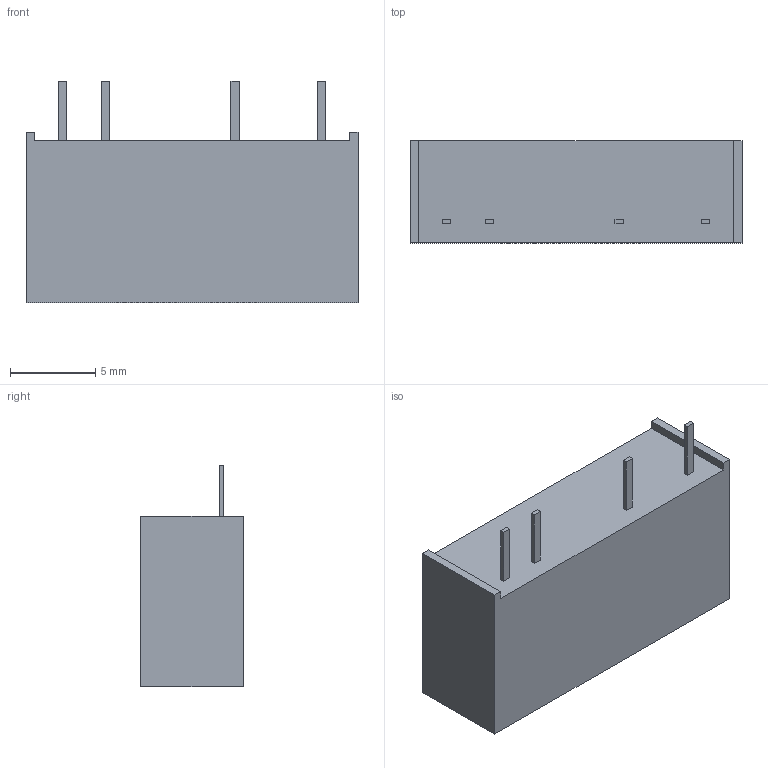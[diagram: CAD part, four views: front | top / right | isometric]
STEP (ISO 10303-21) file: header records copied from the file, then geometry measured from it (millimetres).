
FILE_DESCRIPTION(/* description */ ('Unknown'),/* implementation_level */ '2;1');
FILE_NAME(/* name */ 'ITV(SA)',/* time_stamp */ '2017-12-01T13:03:00+08:00',/* author */ ('Unknown'),/* organization */ ('Unknown'),/* preprocessor_version */ 'ST-DEVELOPER v16.7',/* originating_system */ 'DEX',/* authorisation */ $);
FILE_SCHEMA (('AUTOMOTIVE_DESIGN {1 0 10303 214 3 1 1}'));
Length unit declared in the file: millimetre
Products named in the file (1): ITV(SA)
Bounding box: 19.5 x 6 x 13 mm (x, y, z)
Volume: 1116.2 mm3; surface area: 752.5 mm2
Topology: 1 solids, 1 shells, 30 faces, 72 edges, 48 vertices
Faces by surface type: plane 30
Entity records: 886 total; most frequent: CARTESIAN_POINT 151, ORIENTED_EDGE 144, DIRECTION 134, EDGE_CURVE 72, LINE 72, VECTOR 72, VERTEX_POINT 48, EDGE_LOOP 34
